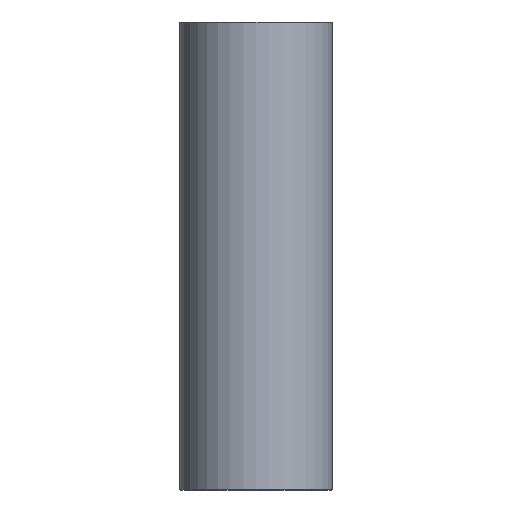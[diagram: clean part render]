
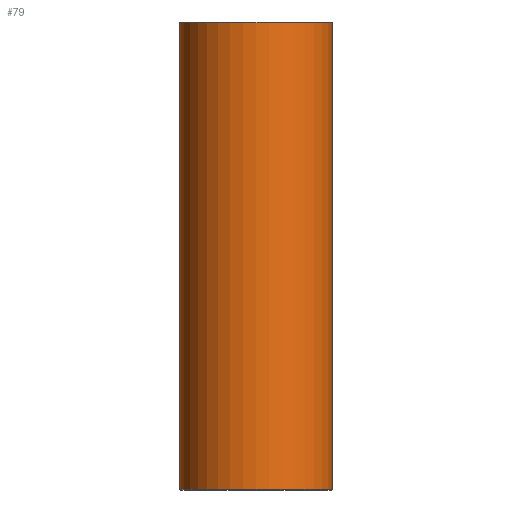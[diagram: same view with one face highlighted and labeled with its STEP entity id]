
A CAD part, front view. The second image highlights one B-rep face of the part: STEP entity #79.
In plain terms, the highlighted cylindrical face has radius 15.5 mm (diameter 31 mm), a full revolution.
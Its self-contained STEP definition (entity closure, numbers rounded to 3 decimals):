
#79=ADVANCED_FACE('',(#96,#97),#98,.T.);
#96=FACE_OUTER_BOUND('',#120,.T.);
#97=FACE_OUTER_BOUND('',#121,.T.);
#98=CYLINDRICAL_SURFACE('',#122,15.5);
#120=EDGE_LOOP('',(#152));
#121=EDGE_LOOP('',(#153));
#122=AXIS2_PLACEMENT_3D('',#154,#155,#156);
#152=ORIENTED_EDGE('',*,*,#178,.T.);
#153=ORIENTED_EDGE('',*,*,#177,.T.);
#154=CARTESIAN_POINT('',(0.0,0.0,95.0));
#155=DIRECTION('',(0.0,0.0,-1.0));
#156=DIRECTION('',(-1.0,0.0,0.0));
#177=EDGE_CURVE('',#190,#190,#191,.T.);
#178=EDGE_CURVE('',#192,#192,#193,.F.);
#190=VERTEX_POINT('',#206);
#191=CIRCLE('',#207,15.5);
#192=VERTEX_POINT('',#208);
#193=CIRCLE('',#209,15.5);
#206=CARTESIAN_POINT('',(15.5,0.0,0.2));
#207=AXIS2_PLACEMENT_3D('',#227,#228,#229);
#208=CARTESIAN_POINT('',(15.5,0.,94.8));
#209=AXIS2_PLACEMENT_3D('',#230,#231,#232);
#227=CARTESIAN_POINT('',(0.0,0.0,0.2));
#228=DIRECTION('',(0.0,0.0,1.0));
#229=DIRECTION('',(1.0,0.0,0.0));
#230=CARTESIAN_POINT('',(0.0,0.0,94.8));
#231=DIRECTION('',(0.0,0.0,1.0));
#232=DIRECTION('',(1.0,0.0,0.0));
